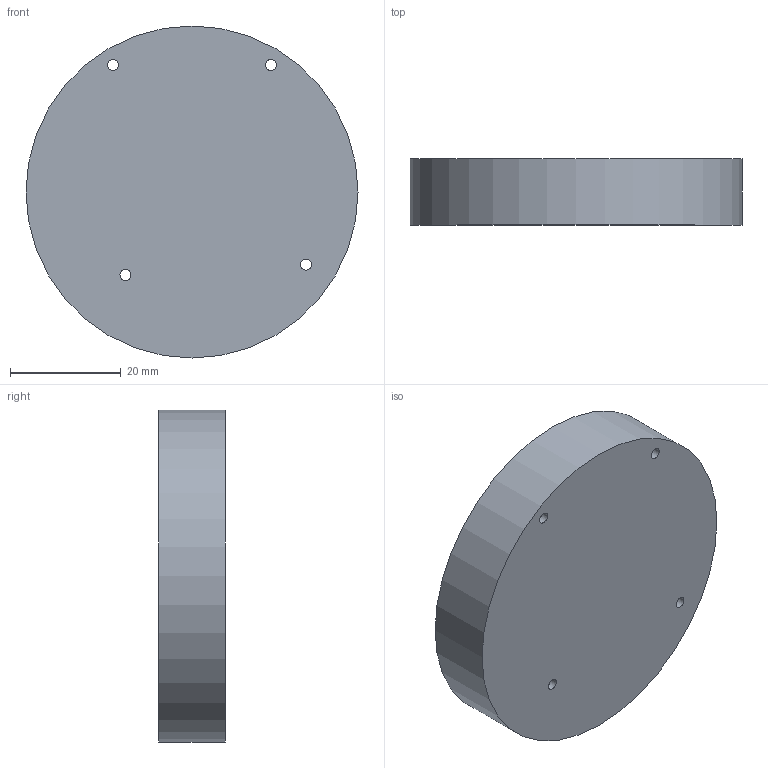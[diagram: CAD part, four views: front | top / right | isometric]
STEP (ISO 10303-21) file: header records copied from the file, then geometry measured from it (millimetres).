
FILE_DESCRIPTION(/* description */ ('STEP AP242 Edition 2','CAx-IF Rec.Pracs.---Representation and Presentation of Product Manufacturing Information (PMI)---4.0---2014-10-13','CAx-IF Rec.Pracs.---3D Tessellated Geometry---0.4---2014-09-14','2;1','CAx-IF Rec.Pracs.---User Defined Attributes---1.5---2016-08-15'),/* implementation_level */ '2;1');
FILE_NAME(/* name */ 'Assembly 1 - Part 1 (37)',/* time_stamp */ '2026-06-04T16:20:01Z',/* author */ (''),/* organization */ (''),/* preprocessor_version */ 'ST-DEVELOPER v20',/* originating_system */ 'ONSHAPE BY PTC INC, 1.215',/* authorisation */ ' ');
FILE_SCHEMA (('AP242_MANAGED_MODEL_BASED_3D_ENGINEERING_MIM_LF { 1 0 10303 442 3 1 4 }'));
Length unit declared in the file: metre
Products named in the file (1): Part 1
Bounding box: 60 x 12 x 60 mm (x, y, z)
Volume: 33778.4 mm3; surface area: 8193.3 mm2
Topology: 1 solids, 1 shells, 7 faces, 15 edges, 10 vertices
Faces by surface type: cylinder 5, plane 2
Full cylindrical faces by diameter (mm): 2 x4, 60 x1
Entity records: 212 total; most frequent: DIRECTION 36, CARTESIAN_POINT 28, ORIENTED_EDGE 20, EDGE_LOOP 20, FACE_BOUND 20, AXIS2_PLACEMENT_3D 18, EDGE_CURVE 10, VERTEX_POINT 10
